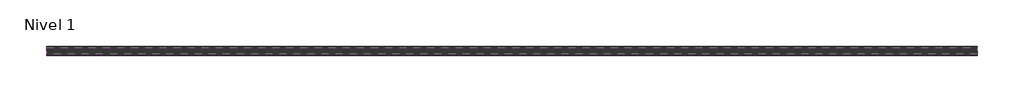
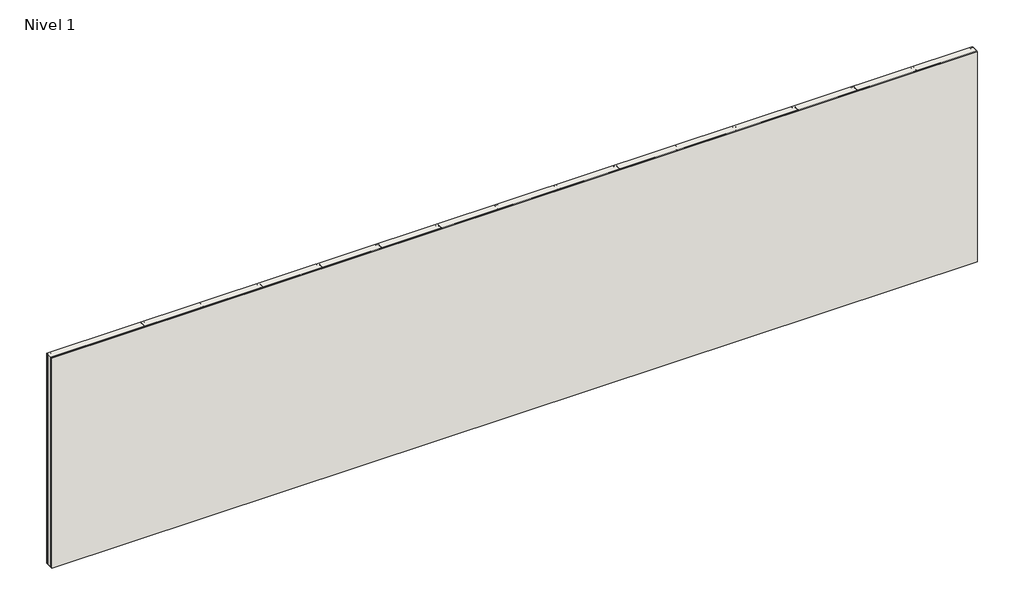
# One storey: 18 proxies, 1 wall.
"""IFC4 building model written with IfcOpenShell, lengths in millimetres."""

import ifcopenshell
import ifcopenshell.guid

model = None  # the IFC model being written
_history = None  # IfcOwnerHistory: only IFC2X3 demands one
_inside = {}  # id of a spatial element -> (the spatial element, [elements in it])
_under = {}  # id of a project, library or spatial element -> (it, [spatial elements below it])
_declared = {}  # id of a project -> (the project, [libraries it declares])
_typed = {}  # id of a type object -> (the type object, [elements of that type])
_made_of = {}  # id of a material, layer set ... -> (it, [elements and type objects made of it])


def new_model(schema):
    """Start an empty IFC model of exactly this schema.

    Asked for "IFC4X3", IfcOpenShell would pick the latest addendum, in which some entities
    have other attributes; the version numbers below select the first issue.
    IFC2X3 requires an IfcOwnerHistory on every rooted entity: one is made here for all.
    """
    global model, _history
    if schema == "IFC4X3":
        model = ifcopenshell.file(schema_version=(4, 3, 0, 0))
    else:
        model = ifcopenshell.file(schema=schema)
    _inside.clear()
    _under.clear()
    _declared.clear()
    _typed.clear()
    _made_of.clear()
    _history = None
    if model.schema == "IFC2X3":
        org = make("IfcOrganization", Name="unknown")
        user = make(
            "IfcPersonAndOrganization",
            ThePerson=make("IfcPerson", FamilyName="unknown"),
            TheOrganization=org,
        )
        app = make(
            "IfcApplication",
            ApplicationDeveloper=org,
            Version="unknown",
            ApplicationFullName="unknown",
            ApplicationIdentifier="unknown",
        )
        _history = make(
            "IfcOwnerHistory",
            OwningUser=user,
            OwningApplication=app,
            ChangeAction="ADDED",
            CreationDate=0,
        )
    return model


def make(cls, **values):
    """One entity of the class cls with the attributes given. An attribute that is None is left unset."""
    return model.create_entity(
        cls, **{name: value for name, value in values.items() if value is not None}
    )


def rooted(cls, **values):
    """An entity with a GlobalId (a new one), such as an element, a storey or a relation."""
    return make(cls, GlobalId=ifcopenshell.guid.new(), OwnerHistory=_history, **values)


def si_unit(unit_type, name, prefix=None):
    """IfcSIUnit, for example si_unit("LENGTHUNIT", "METRE", prefix="MILLI")."""
    return make("IfcSIUnit", UnitType=unit_type, Prefix=prefix, Name=name)


def assignment(units):
    """IfcUnitAssignment: the units of a project."""
    return None if units is None else make("IfcUnitAssignment", Units=units)


def point(xyz):
    """IfcCartesianPoint."""
    return None if xyz is None else make("IfcCartesianPoint", Coordinates=xyz)


def direction(xyz):
    """IfcDirection."""
    return None if xyz is None else make("IfcDirection", DirectionRatios=xyz)


def frame(location, z_axis=None, x_axis=None):
    """IfcAxis2Placement3D, a coordinate frame: its origin and axes. An axis left out is left unset."""
    return make(
        "IfcAxis2Placement3D",
        Location=point(location),
        Axis=direction(z_axis),
        RefDirection=direction(x_axis),
    )


def origin():
    """The frame at (0, 0, 0) with its axes left unset."""
    return frame((0.0, 0.0, 0.0))


def origin_with_axes():
    """The frame at (0, 0, 0) with the z axis (0, 0, 1) and the x axis (1, 0, 0) written out."""
    return frame((0.0, 0.0, 0.0), z_axis=(0.0, 0.0, 1.0), x_axis=(1.0, 0.0, 0.0))


def place(relative_to, where):
    """IfcLocalPlacement: puts the frame where relative to a parent placement (None: the world)."""
    return make(
        "IfcLocalPlacement", PlacementRelTo=relative_to, RelativePlacement=where
    )


def context(
    kind, dimensions, precision=None, world=None, true_north=None, identifier=None
):
    """IfcGeometricRepresentationContext, for example the 3D "Model" context."""
    return make(
        "IfcGeometricRepresentationContext",
        ContextIdentifier=identifier,
        ContextType=kind,
        CoordinateSpaceDimension=dimensions,
        Precision=precision,
        WorldCoordinateSystem=world,
        TrueNorth=true_north,
    )


def project(units=None, contexts=None):
    """IfcProject with its units and contexts."""
    return rooted(
        "IfcProject",
        Name="project",
        RepresentationContexts=contexts,
        UnitsInContext=assignment(units),
    )


def spatial(cls, under=None, at=None, **own):
    """A site, building, storey or space (cls), placed at a placement, below another one or the project."""
    s = rooted(cls, ObjectPlacement=at, **own)
    if under is not None:
        _under.setdefault(under.id(), (under, []))[1].append(s)
    return s


def polyline(points):
    """IfcPolyline through the points."""
    return make("IfcPolyline", Points=[point(p) for p in points])


def outline(outer, holes=None, kind="AREA"):
    """IfcArbitraryClosedProfileDef: a profile drawn as a closed curve; with holes, ...WithVoids."""
    if holes is None:
        return make("IfcArbitraryClosedProfileDef", ProfileType=kind, OuterCurve=outer)
    return make(
        "IfcArbitraryProfileDefWithVoids",
        ProfileType=kind,
        OuterCurve=outer,
        InnerCurves=holes,
    )


def extrude(swept, where, along, depth):
    """IfcExtrudedAreaSolid: the profile swept, set in the frame where, extruded along a direction by depth."""
    return make(
        "IfcExtrudedAreaSolid",
        SweptArea=swept,
        Position=where,
        ExtrudedDirection=direction(along),
        Depth=depth,
    )


def shape(context_of_items, identifier, shape_type, items):
    """IfcShapeRepresentation: the items that make up one representation, for example the "Body"."""
    return make(
        "IfcShapeRepresentation",
        ContextOfItems=context_of_items,
        RepresentationIdentifier=identifier,
        RepresentationType=shape_type,
        Items=items,
    )


def source(mapping_origin, context_of_items, identifier, shape_type, items):
    """IfcRepresentationMap: a shape defined once, which mapped items show again and again."""
    return make(
        "IfcRepresentationMap",
        MappingOrigin=mapping_origin,
        MappedRepresentation=shape(context_of_items, identifier, shape_type, items),
    )


def transform(
    local_origin,
    x_axis=None,
    y_axis=None,
    z_axis=None,
    scale=None,
    scale2=None,
    scale3=None,
    uniform=True,
):
    """IfcCartesianTransformationOperator3D, or its non-uniform kind. x_axis, y_axis, z_axis: its Axis1, 2, 3."""
    if uniform:
        return make(
            "IfcCartesianTransformationOperator3D",
            Axis1=direction(x_axis),
            Axis2=direction(y_axis),
            LocalOrigin=point(local_origin),
            Scale=scale,
            Axis3=direction(z_axis),
        )
    return make(
        "IfcCartesianTransformationOperator3DnonUniform",
        Axis1=direction(x_axis),
        Axis2=direction(y_axis),
        LocalOrigin=point(local_origin),
        Scale=scale,
        Axis3=direction(z_axis),
        Scale2=scale2,
        Scale3=scale3,
    )


def mapped(mapping_source, mapping_target):
    """IfcMappedItem: shows the shape of a source again, moved by a transform."""
    return make(
        "IfcMappedItem", MappingSource=mapping_source, MappingTarget=mapping_target
    )


def made_of(thing, what):
    """Note that an element or type object is made of a material, layer set ...; save() writes the relation."""
    if what is not None:
        _made_of.setdefault(what.id(), (what, []))[1].append(thing)
    return thing


def element(
    cls,
    number,
    at=None,
    inside=None,
    cuts=None,
    type_object=None,
    material=None,
    context=None,
    identifier="Body",
    shape_type=None,
    held_by="IfcProductDefinitionShape",
    body=None,
    shapes=None,
    **own,
):
    """One element of the class cls, such as IfcWall. Its Tag is "e" and its number.

    at: its placement. inside: the storey or other place that contains it. cuts: it is an
    opening in that element (IfcRelVoidsElement). A single representation is given by context,
    identifier, shape_type and body (its items); several are given by shapes. held_by: the class
    of the entity that holds the representations. save() writes the other relations.
    """
    e = rooted(cls, Tag="e%d" % number, ObjectPlacement=at, **own)
    if body is not None:
        shapes = [shape(context, identifier, shape_type, body)]
    if shapes is not None:
        e.Representation = make(held_by, Representations=shapes)
    if inside is not None:
        _inside.setdefault(inside.id(), (inside, []))[1].append(e)
    if cuts is not None:
        rooted(
            "IfcRelVoidsElement", RelatingBuildingElement=cuts, RelatedOpeningElement=e
        )
    if type_object is not None:
        _typed.setdefault(type_object.id(), (type_object, []))[1].append(e)
    return made_of(e, material)


def aggregate(whole, parts):
    """IfcRelAggregates: a whole, such as a stair, and the parts it consists of."""
    return rooted("IfcRelAggregates", RelatingObject=whole, RelatedObjects=parts)


def save(model, path):
    """Write the relations noted so far, then the file.

    IfcRelAggregates (storeys below a building ...), IfcRelContainedInSpatialStructure (elements
    in a storey), IfcRelDefinesByType, IfcRelAssociatesMaterial and IfcRelDeclares: one each for
    every whole, place, type object, material and project.
    """
    for whole, parts in _under.values():
        aggregate(whole, parts)
    for where, things in _inside.values():
        rooted(
            "IfcRelContainedInSpatialStructure",
            RelatedElements=things,
            RelatingStructure=where,
        )
    for kind, things in _typed.values():
        rooted("IfcRelDefinesByType", RelatedObjects=things, RelatingType=kind)
    for what, things in _made_of.values():
        rooted("IfcRelAssociatesMaterial", RelatedObjects=things, RelatingMaterial=what)
    for by, libraries in _declared.values():
        rooted("IfcRelDeclares", RelatingContext=by, RelatedDefinitions=libraries)
    model.write(path)


def generic_models_efc4bd1f(model_context):
    return source(origin(), model_context, "Body", "SweptSolid", [
        extrude(outline(polyline([(17.8255771, 31.5), (17.8255771, 24.5), (16.8255771, 24.5), (16.8255771, 30.5), (-10.984671, 30.5), (-10.984671, 24.8333333), (-7.984671, 17.8333333), (-7.984671, -17.8333333), (-10.984671, -24.8333333), (-10.984671, -30.5), (16.8255771, -30.5), (16.8255771, -24.5), (17.8255771, -24.5), (17.8255771, -31.5), (-11.984671, -31.5), (-11.984671, -24.5), (-8.984671, -17.5), (-8.984671, 17.5), (-11.984671, 24.5), (-11.984671, 31.5), (17.8255771, 31.5)])), frame((0.0, 0.0, 3.0), z_axis=(0.0, 0.0, 1.0), x_axis=(1.0, 0.0, 0.0)), (0.0, 0.0, 1.0), 2278.2693648),
    ])


def generic_models_88bf83bc(model_context):
    return source(origin(), model_context, "Body", "SweptSolid", [
        extrude(outline(polyline([(31.9948151, 0.0), (-31.9948151, 0.0), (-31.9948151, 22.0), (-30.9948151, 22.0), (-30.9948151, 1.0), (30.9948151, 1.0), (30.9948151, 22.0), (31.9948151, 22.0), (31.9948151, 0.0)])), frame((2.5746571, 0.0, 0.0), z_axis=(1.0, 0.0, 0.0), x_axis=(0.0, 1.0, 0.0)), (0.0, 0.0, 1.0), 9500.0),
    ])


def generic_models_21536118(model_context):
    return source(origin(), model_context, "Body", "SweptSolid", [
        extrude(outline(polyline([(32.0, -22.0), (31.0, -22.0), (31.0, -1.0), (-31.0, -1.0), (-31.0, -22.0), (-32.0, -22.0), (-32.0, 0.0), (32.0, 0.0), (32.0, -22.0)])), frame((2.5746571, 0.0, 0.0), z_axis=(1.0, 0.0, 0.0), x_axis=(0.0, 1.0, 0.0)), (0.0, 0.0, 1.0), 9500.0),
    ])


model = new_model("IFC4")

# Units and contexts
model_context = context("Model", 3, world=origin())
ifc_project = project(units=[si_unit("LENGTHUNIT", "METRE", prefix="MILLI")], contexts=[model_context])

# Site, building, storey
site = spatial("IfcSite", under=ifc_project)
building = spatial("IfcBuilding", under=site)
storey = spatial("IfcBuildingStorey", under=building, Name="Nivel 1", Elevation=0.0)

# Proxies
placement = place(None, origin())
generic_models_shape = generic_models_efc4bd1f(model_context)
element("IfcBuildingElementProxy", 1, Name="SICON Stud 2 1-2 : SICON Stud 2 1/2", ObjectType="SICON Stud 2 1-2 : SICON Stud 2 1/2", at=placement, inside=storey, context=model_context, shape_type="MappedRepresentation", body=[
    mapped(generic_models_shape, transform((-11444.7860534, 286.8814337, -3.0), x_axis=(1.0, 0.0, 0.0), y_axis=(0.0, 1.0, 0.0), z_axis=(0.0, 0.0, 1.0))),
])
element("IfcBuildingElementProxy", 2, Name="SICON Stud 2 1-2 : SICON Stud 2 1/2", ObjectType="SICON Stud 2 1-2 : SICON Stud 2 1/2", at=placement, inside=storey, context=model_context, shape_type="MappedRepresentation", body=[
    mapped(generic_models_shape, transform((-10484.7860534, 286.8814337, -3.0), x_axis=(1.0, 0.0, 0.0), y_axis=(0.0, 1.0, 0.0), z_axis=(0.0, 0.0, 1.0))),
])
element("IfcBuildingElementProxy", 3, Name="SICON Stud 2 1-2 : SICON Stud 2 1/2", ObjectType="SICON Stud 2 1-2 : SICON Stud 2 1/2", at=placement, inside=storey, context=model_context, shape_type="MappedRepresentation", body=[
    mapped(generic_models_shape, transform((-3188.7553954, 286.8814337, -3.0), x_axis=(-1.0, 0.0, 0.0), y_axis=(0.0, -1.0, 0.0), z_axis=(0.0, 0.0, 1.0))),
])
element("IfcBuildingElementProxy", 4, Name="SICON Stud 2 1-2 : SICON Stud 2 1/2", ObjectType="SICON Stud 2 1-2 : SICON Stud 2 1/2", at=placement, inside=storey, context=model_context, shape_type="MappedRepresentation", body=[
    mapped(generic_models_shape, transform((-2578.7553954, 286.8814337, -3.0), x_axis=(-1.0, 0.0, 0.0), y_axis=(0.0, -1.0, 0.0), z_axis=(0.0, 0.0, 1.0))),
])
element("IfcBuildingElementProxy", 5, Name="SICON Stud 2 1-2 : SICON Stud 2 1/2", ObjectType="SICON Stud 2 1-2 : SICON Stud 2 1/2", at=placement, inside=storey, context=model_context, shape_type="MappedRepresentation", body=[
    mapped(generic_models_shape, transform((-1968.7553954, 286.8814337, -3.0), x_axis=(-1.0, 0.0, 0.0), y_axis=(0.0, -1.0, 0.0), z_axis=(0.0, 0.0, 1.0))),
])
element("IfcBuildingElementProxy", 6, Name="SICON Stud 2 1-2 : SICON Stud 2 1/2", ObjectType="SICON Stud 2 1-2 : SICON Stud 2 1/2", at=placement, inside=storey, context=model_context, shape_type="MappedRepresentation", body=[
    mapped(generic_models_shape, transform((-5628.7553954, 286.8814337, -3.0), x_axis=(-1.0, 0.0, 0.0), y_axis=(0.0, -1.0, 0.0), z_axis=(0.0, 0.0, 1.0))),
])
element("IfcBuildingElementProxy", 7, Name="SICON Stud 2 1-2 : SICON Stud 2 1/2", ObjectType="SICON Stud 2 1-2 : SICON Stud 2 1/2", at=placement, inside=storey, context=model_context, shape_type="MappedRepresentation", body=[
    mapped(generic_models_shape, transform((-5018.7553954, 286.8814337, -3.0), x_axis=(-1.0, 0.0, 0.0), y_axis=(0.0, -1.0, 0.0), z_axis=(0.0, 0.0, 1.0))),
])
element("IfcBuildingElementProxy", 8, Name="SICON Stud 2 1-2 : SICON Stud 2 1/2", ObjectType="SICON Stud 2 1-2 : SICON Stud 2 1/2", at=placement, inside=storey, context=model_context, shape_type="MappedRepresentation", body=[
    mapped(generic_models_shape, transform((-4408.7553954, 286.8814337, -3.0), x_axis=(-1.0, 0.0, 0.0), y_axis=(0.0, -1.0, 0.0), z_axis=(0.0, 0.0, 1.0))),
])
element("IfcBuildingElementProxy", 9, Name="SICON Stud 2 1-2 : SICON Stud 2 1/2", ObjectType="SICON Stud 2 1-2 : SICON Stud 2 1/2", at=placement, inside=storey, context=model_context, shape_type="MappedRepresentation", body=[
    mapped(generic_models_shape, transform((-3798.7553954, 286.8814337, -3.0), x_axis=(-1.0, 0.0, 0.0), y_axis=(0.0, -1.0, 0.0), z_axis=(0.0, 0.0, 1.0))),
])
element("IfcBuildingElementProxy", 10, Name="SICON Stud 2 1-2 : SICON Stud 2 1/2", ObjectType="SICON Stud 2 1-2 : SICON Stud 2 1/2", at=placement, inside=storey, context=model_context, shape_type="MappedRepresentation", body=[
    mapped(generic_models_shape, transform((-9898.7553954, 286.8814337, -3.0), x_axis=(-1.0, 0.0, 0.0), y_axis=(0.0, -1.0, 0.0), z_axis=(0.0, 0.0, 1.0))),
])
element("IfcBuildingElementProxy", 11, Name="SICON Stud 2 1-2 : SICON Stud 2 1/2", ObjectType="SICON Stud 2 1-2 : SICON Stud 2 1/2", at=placement, inside=storey, context=model_context, shape_type="MappedRepresentation", body=[
    mapped(generic_models_shape, transform((-9288.7553954, 286.8814337, -3.0), x_axis=(-1.0, 0.0, 0.0), y_axis=(0.0, -1.0, 0.0), z_axis=(0.0, 0.0, 1.0))),
])
element("IfcBuildingElementProxy", 12, Name="SICON Stud 2 1-2 : SICON Stud 2 1/2", ObjectType="SICON Stud 2 1-2 : SICON Stud 2 1/2", at=placement, inside=storey, context=model_context, shape_type="MappedRepresentation", body=[
    mapped(generic_models_shape, transform((-8678.7553954, 286.8814337, -3.0), x_axis=(-1.0, 0.0, 0.0), y_axis=(0.0, -1.0, 0.0), z_axis=(0.0, 0.0, 1.0))),
])
element("IfcBuildingElementProxy", 13, Name="SICON Stud 2 1-2 : SICON Stud 2 1/2", ObjectType="SICON Stud 2 1-2 : SICON Stud 2 1/2", at=placement, inside=storey, context=model_context, shape_type="MappedRepresentation", body=[
    mapped(generic_models_shape, transform((-8068.7553954, 286.8814337, -3.0), x_axis=(-1.0, 0.0, 0.0), y_axis=(0.0, -1.0, 0.0), z_axis=(0.0, 0.0, 1.0))),
])
element("IfcBuildingElementProxy", 14, Name="SICON Stud 2 1-2 : SICON Stud 2 1/2", ObjectType="SICON Stud 2 1-2 : SICON Stud 2 1/2", at=placement, inside=storey, context=model_context, shape_type="MappedRepresentation", body=[
    mapped(generic_models_shape, transform((-7458.7553954, 286.8814337, -3.0), x_axis=(-1.0, 0.0, 0.0), y_axis=(0.0, -1.0, 0.0), z_axis=(0.0, 0.0, 1.0))),
])
element("IfcBuildingElementProxy", 15, Name="SICON Stud 2 1-2 : SICON Stud 2 1/2", ObjectType="SICON Stud 2 1-2 : SICON Stud 2 1/2", at=placement, inside=storey, context=model_context, shape_type="MappedRepresentation", body=[
    mapped(generic_models_shape, transform((-6848.7553954, 286.8814337, -3.0), x_axis=(-1.0, 0.0, 0.0), y_axis=(0.0, -1.0, 0.0), z_axis=(0.0, 0.0, 1.0))),
])
element("IfcBuildingElementProxy", 16, Name="SICON Stud 2 1-2 : SICON Stud 2 1/2", ObjectType="SICON Stud 2 1-2 : SICON Stud 2 1/2", at=placement, inside=storey, context=model_context, shape_type="MappedRepresentation", body=[
    mapped(generic_models_shape, transform((-6238.7553954, 286.8814337, -3.0), x_axis=(-1.0, 0.0, 0.0), y_axis=(0.0, -1.0, 0.0), z_axis=(0.0, 0.0, 1.0))),
])
generic_models_2_shape = generic_models_88bf83bc(model_context)
element("IfcBuildingElementProxy", 17, Name="SICON Track Inferior 2 1-2 : SICON Track Inferior 2 1/2", ObjectType="SICON Track Inferior 2 1-2 : SICON Track Inferior 2 1/2", at=placement, inside=storey, context=model_context, shape_type="MappedRepresentation", body=[
    mapped(generic_models_2_shape, transform((-1954.1960673, 286.8814337, 0.0), x_axis=(-1.0, 0.0, 0.0), y_axis=(0.0, -1.0, 0.0), z_axis=(0.0, 0.0, 1.0))),
])
generic_models_3_shape = generic_models_21536118(model_context)
element("IfcBuildingElementProxy", 18, Name="SICON Track Superior 2 1-2 : SICON Track Superior 2 1/2", ObjectType="SICON Track Superior 2 1-2 : SICON Track Superior 2 1/2", at=placement, inside=storey, context=model_context, shape_type="MappedRepresentation", body=[
    mapped(generic_models_3_shape, transform((-1954.1960673, 286.8814337, 2278.2693648), x_axis=(-1.0, 0.0, 0.0), y_axis=(0.0, -1.0, 0.0), z_axis=(0.0, 0.0, 1.0))),
])

# Wall
element("IfcWall", 19, ObjectType="SICON Ensamble 2 1/2", at=placement, inside=storey, context=model_context, shape_type="SweptSolid", body=[
    extrude(outline(polyline([(-1956.7707244, 239.8814337), (-11456.7707244, 239.8814337), (-11456.7707244, 333.8814337), (-1956.7707244, 333.8814337), (-1956.7707244, 239.8814337)])), origin_with_axes(), (0.0, 0.0, 1.0), 2278.2693648),
])

save(model, "model.ifc")
